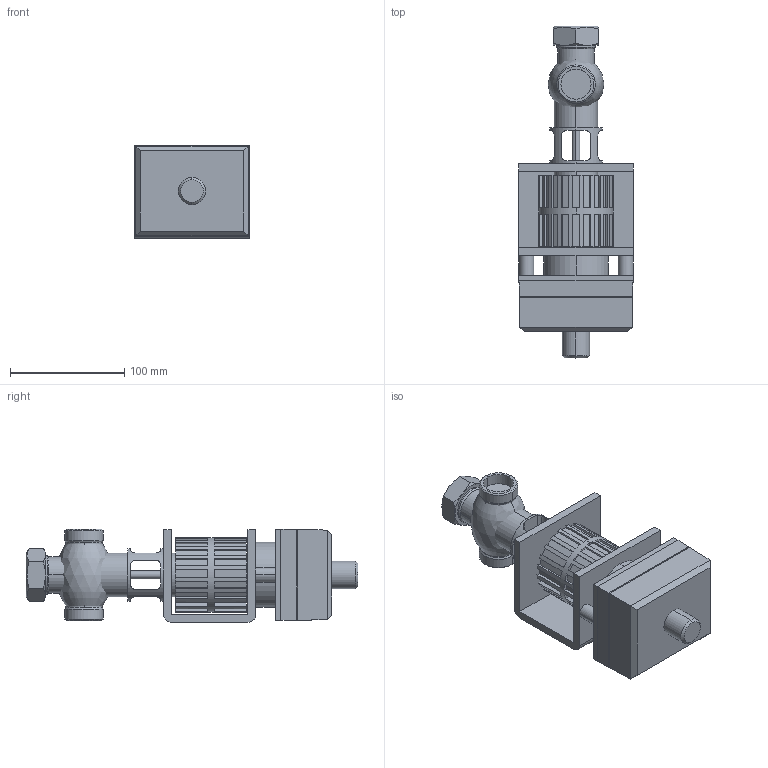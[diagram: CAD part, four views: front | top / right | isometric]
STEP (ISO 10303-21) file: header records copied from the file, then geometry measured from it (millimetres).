
FILE_DESCRIPTION((''),'2;1');
FILE_NAME('000280.stp','2006-10-04T15:54:50',(''),(''),'Mechanical Desktop 2006','Mechanical Desktop 2006',', , ');
FILE_SCHEMA(('AUTOMOTIVE_DESIGN { 1 2 10303 214 0 1 1 1 }'));
Length unit declared in the file: millimetre
Products named in the file (1): Product
Bounding box: 100 x 291 x 81.92 mm (x, y, z)
Volume: 1082130.9 mm3; surface area: 198703.3 mm2
Topology: 27 solids, 27 shells, 509 faces, 1322 edges, 865 vertices
Faces by surface type: plane 229, cylinder 144, bspline 130, cone 6
Entity records: 16318 total; most frequent: CARTESIAN_POINT 3941, ORIENTED_EDGE 2644, DIRECTION 2425, EDGE_CURVE 1322, VECTOR 875, LINE 875, VERTEX_POINT 865, AXIS2_PLACEMENT_3D 775
